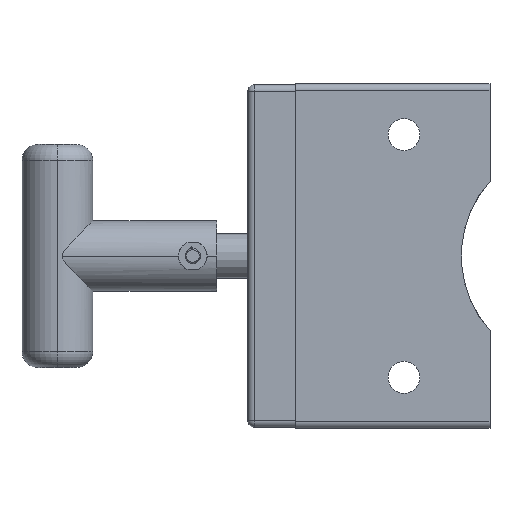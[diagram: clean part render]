
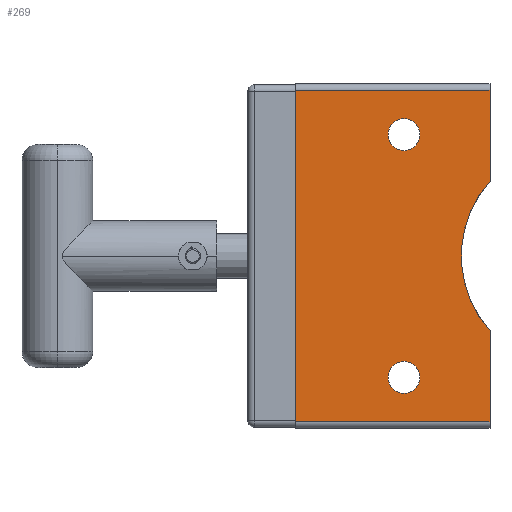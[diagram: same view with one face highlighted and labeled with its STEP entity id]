
A CAD part, left-side view. The second image highlights one B-rep face of the part: STEP entity #269.
In plain terms, the highlighted planar face has unit normal (-1, 0, 0).
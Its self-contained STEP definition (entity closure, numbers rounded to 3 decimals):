
#269 = ADVANCED_FACE ( 'NONE', ( #1755, #1762, #1764 ), #15403, .F. ) ;
#1000 = EDGE_LOOP ( 'NONE', ( #1659, #1658, #1657, #1656, #1655, #1654 ) ) ;
#1001 = EDGE_LOOP ( 'NONE', ( #1661, #1660 ) ) ;
#1004 = EDGE_LOOP ( 'NONE', ( #1663, #1662 ) ) ;
#1654 = ORIENTED_EDGE ( 'NONE', *, *, #9579, .T. ) ;
#1655 = ORIENTED_EDGE ( 'NONE', *, *, #9422, .T. ) ;
#1656 = ORIENTED_EDGE ( 'NONE', *, *, #9518, .F. ) ;
#1657 = ORIENTED_EDGE ( 'NONE', *, *, #9423, .T. ) ;
#1658 = ORIENTED_EDGE ( 'NONE', *, *, #9578, .T. ) ;
#1659 = ORIENTED_EDGE ( 'NONE', *, *, #9524, .F. ) ;
#1660 = ORIENTED_EDGE ( 'NONE', *, *, #9613, .F. ) ;
#1661 = ORIENTED_EDGE ( 'NONE', *, *, #9516, .F. ) ;
#1662 = ORIENTED_EDGE ( 'NONE', *, *, #9629, .F. ) ;
#1663 = ORIENTED_EDGE ( 'NONE', *, *, #9425, .F. ) ;
#1755 = FACE_BOUND ( 'NONE', #1004, .T. ) ;
#1762 = FACE_BOUND ( 'NONE', #1001, .T. ) ;
#1764 = FACE_OUTER_BOUND ( 'NONE', #1000, .T. ) ;
#3113 = AXIS2_PLACEMENT_3D ( 'NONE', #15402, #15404, #15405 ) ;
#4961 = AXIS2_PLACEMENT_3D ( 'NONE', #12541, #12544, #12546 ) ;
#4963 = AXIS2_PLACEMENT_3D ( 'NONE', #13042, #13046, #13048 ) ;
#4964 = AXIS2_PLACEMENT_3D ( 'NONE', #13030, #13033, #13035 ) ;
#4993 = AXIS2_PLACEMENT_3D ( 'NONE', #15735, #15752, #15754 ) ;
#5008 = AXIS2_PLACEMENT_3D ( 'NONE', #15843, #15846, #15848 ) ;
#9422 = EDGE_CURVE ( 'NONE', #11449, #14136, #10966, .T. ) ;
#9423 = EDGE_CURVE ( 'NONE', #14304, #14307, #10963, .T. ) ;
#9425 = EDGE_CURVE ( 'NONE', #14393, #11331, #10973, .T. ) ;
#9516 = EDGE_CURVE ( 'NONE', #14140, #14143, #11141, .T. ) ;
#9518 = EDGE_CURVE ( 'NONE', #11449, #14307, #11145, .T. ) ;
#9524 = EDGE_CURVE ( 'NONE', #14175, #11337, #11153, .T. ) ;
#9578 = EDGE_CURVE ( 'NONE', #14175, #14304, #11226, .T. ) ;
#9579 = EDGE_CURVE ( 'NONE', #14136, #11337, #11250, .T. ) ;
#9613 = EDGE_CURVE ( 'NONE', #14143, #14140, #11299, .T. ) ;
#9629 = EDGE_CURVE ( 'NONE', #11331, #14393, #11321, .T. ) ;
#10963 = LINE ( 'NONE', #12521, #10968 ) ;
#10966 = LINE ( 'NONE', #12527, #10967 ) ;
#10967 = VECTOR ( 'NONE', #12529, 1000. ) ;
#10968 = VECTOR ( 'NONE', #12533, 1000. ) ;
#10973 = CIRCLE ( 'NONE', #4961, 5. ) ;
#11141 = CIRCLE ( 'NONE', #4964, 5. ) ;
#11145 = CIRCLE ( 'NONE', #4963, 35. ) ;
#11153 = LINE ( 'NONE', #13074, #11154 ) ;
#11154 = VECTOR ( 'NONE', #13076, 1000. ) ;
#11226 = LINE ( 'NONE', #15566, #11246 ) ;
#11246 = VECTOR ( 'NONE', #15568, 1000. ) ;
#11250 = LINE ( 'NONE', #15570, #11251 ) ;
#11251 = VECTOR ( 'NONE', #15572, 1000. ) ;
#11299 = CIRCLE ( 'NONE', #4993, 5. ) ;
#11321 = CIRCLE ( 'NONE', #5008, 5. ) ;
#11331 = VERTEX_POINT ( 'NONE', #18232 ) ;
#11337 = VERTEX_POINT ( 'NONE', #18238 ) ;
#11449 = VERTEX_POINT ( 'NONE', #18350 ) ;
#12521 = CARTESIAN_POINT ( 'NONE',  ( -36., 0., -54. ) ) ;
#12527 = CARTESIAN_POINT ( 'NONE',  ( -36., 0., -54. ) ) ;
#12529 = DIRECTION ( 'NONE',  ( 0., 0., 1. ) ) ;
#12533 = DIRECTION ( 'NONE',  ( 0., 0., 1. ) ) ;
#12541 = CARTESIAN_POINT ( 'NONE',  ( -36., 27., -38.1 ) ) ;
#12544 = DIRECTION ( 'NONE',  ( -1., 0., 0. ) ) ;
#12546 = DIRECTION ( 'NONE',  ( 0., 0., 1. ) ) ;
#13030 = CARTESIAN_POINT ( 'NONE',  ( -36., 27., 38.1 ) ) ;
#13033 = DIRECTION ( 'NONE',  ( -1., 0., 0. ) ) ;
#13035 = DIRECTION ( 'NONE',  ( 0., 0., 1. ) ) ;
#13042 = CARTESIAN_POINT ( 'NONE',  ( -36., -26., 0. ) ) ;
#13046 = DIRECTION ( 'NONE',  ( -1., 0., 0. ) ) ;
#13048 = DIRECTION ( 'NONE',  ( 0., 0., -1. ) ) ;
#13074 = CARTESIAN_POINT ( 'NONE',  ( -36., 61., -54. ) ) ;
#13076 = DIRECTION ( 'NONE',  ( 0., 0., 1. ) ) ;
#14136 = VERTEX_POINT ( 'NONE', #18375 ) ;
#14140 = VERTEX_POINT ( 'NONE', #18377 ) ;
#14143 = VERTEX_POINT ( 'NONE', #18370 ) ;
#14175 = VERTEX_POINT ( 'NONE', #18410 ) ;
#14304 = VERTEX_POINT ( 'NONE', #18539 ) ;
#14307 = VERTEX_POINT ( 'NONE', #18542 ) ;
#14393 = VERTEX_POINT ( 'NONE', #18628 ) ;
#15402 = CARTESIAN_POINT ( 'NONE',  ( -36., 61., -54. ) ) ;
#15403 = PLANE ( 'NONE',  #3113 ) ;
#15404 = DIRECTION ( 'NONE',  ( 1., 0., 0. ) ) ;
#15405 = DIRECTION ( 'NONE',  ( 0., 0., -1. ) ) ;
#15566 = CARTESIAN_POINT ( 'NONE',  ( -36., 61., -52. ) ) ;
#15568 = DIRECTION ( 'NONE',  ( 0., -1., 0. ) ) ;
#15570 = CARTESIAN_POINT ( 'NONE',  ( -36., 61., 52. ) ) ;
#15572 = DIRECTION ( 'NONE',  ( 0., 1., 0. ) ) ;
#15735 = CARTESIAN_POINT ( 'NONE',  ( -36., 27., 38.1 ) ) ;
#15752 = DIRECTION ( 'NONE',  ( -1., 0., 0. ) ) ;
#15754 = DIRECTION ( 'NONE',  ( 0., 0., 1. ) ) ;
#15843 = CARTESIAN_POINT ( 'NONE',  ( -36., 27., -38.1 ) ) ;
#15846 = DIRECTION ( 'NONE',  ( -1., 0., 0. ) ) ;
#15848 = DIRECTION ( 'NONE',  ( 0., 0., 1. ) ) ;
#18232 = CARTESIAN_POINT ( 'NONE',  ( -36., 27., -43.1 ) ) ;
#18238 = CARTESIAN_POINT ( 'NONE',  ( -36., 61., 52. ) ) ;
#18350 = CARTESIAN_POINT ( 'NONE',  ( -36., 0., 23.431 ) ) ;
#18370 = CARTESIAN_POINT ( 'NONE',  ( -36., 27., 33.1 ) ) ;
#18375 = CARTESIAN_POINT ( 'NONE',  ( -36., 0., 52. ) ) ;
#18377 = CARTESIAN_POINT ( 'NONE',  ( -36., 27., 43.1 ) ) ;
#18410 = CARTESIAN_POINT ( 'NONE',  ( -36., 61., -52. ) ) ;
#18539 = CARTESIAN_POINT ( 'NONE',  ( -36., 0., -52. ) ) ;
#18542 = CARTESIAN_POINT ( 'NONE',  ( -36., 0., -23.431 ) ) ;
#18628 = CARTESIAN_POINT ( 'NONE',  ( -36., 27., -33.1 ) ) ;
